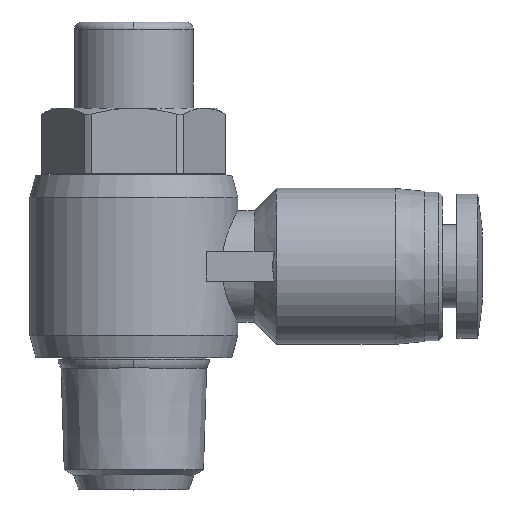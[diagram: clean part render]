
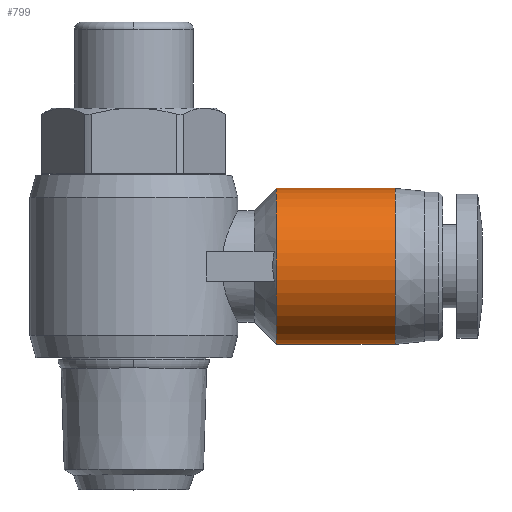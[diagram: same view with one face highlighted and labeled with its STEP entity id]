
A CAD part, top view. The second image highlights one B-rep face of the part: STEP entity #799.
In plain terms, the highlighted cylindrical face has radius 5.25 mm (diameter 10.5 mm), a partial arc.
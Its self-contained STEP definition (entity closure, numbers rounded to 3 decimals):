
#85 = VECTOR ( 'NONE', #425, 1000. ) ;
#132 = LINE ( 'NONE', #1919, #85 ) ;
#398 = VERTEX_POINT ( 'NONE', #2550 ) ;
#425 = DIRECTION ( 'NONE',  ( -1., 0., 0. ) ) ;
#454 = DIRECTION ( 'NONE',  ( 0., -1., 0. ) ) ;
#497 = EDGE_CURVE ( 'NONE', #543, #971, #2942, .T. ) ;
#543 = VERTEX_POINT ( 'NONE', #2554 ) ;
#548 = DIRECTION ( 'NONE',  ( 0., -1., 0. ) ) ;
#775 = DIRECTION ( 'NONE',  ( -1., 0., 0. ) ) ;
#799 = ADVANCED_FACE ( 'NONE', ( #3230 ), #2606, .T. ) ;
#812 = EDGE_CURVE ( 'NONE', #971, #398, #1681, .T. ) ;
#971 = VERTEX_POINT ( 'NONE', #1521 ) ;
#1029 = CARTESIAN_POINT ( 'NONE',  ( 9.6, 15.05, 0. ) ) ;
#1085 = AXIS2_PLACEMENT_3D ( 'NONE', #1029, #1974, #3436 ) ;
#1110 = EDGE_CURVE ( 'NONE', #543, #1393, #132, .T. ) ;
#1147 = CARTESIAN_POINT ( 'NONE',  ( 13.6, 20.3, 0. ) ) ;
#1393 = VERTEX_POINT ( 'NONE', #2252 ) ;
#1507 = AXIS2_PLACEMENT_3D ( 'NONE', #2044, #2833, #454 ) ;
#1521 = CARTESIAN_POINT ( 'NONE',  ( 17.6, 20.3, 0. ) ) ;
#1656 = ORIENTED_EDGE ( 'NONE', *, *, #1110, .F. ) ;
#1681 = LINE ( 'NONE', #1147, #2815 ) ;
#1772 = AXIS2_PLACEMENT_3D ( 'NONE', #2320, #775, #548 ) ;
#1919 = CARTESIAN_POINT ( 'NONE',  ( 13.6, 9.8, 0. ) ) ;
#1929 = ORIENTED_EDGE ( 'NONE', *, *, #497, .T. ) ;
#1974 = DIRECTION ( 'NONE',  ( -1., 0., 0. ) ) ;
#2044 = CARTESIAN_POINT ( 'NONE',  ( 17.6, 15.05, 0. ) ) ;
#2252 = CARTESIAN_POINT ( 'NONE',  ( 9.6, 9.8, 0. ) ) ;
#2320 = CARTESIAN_POINT ( 'NONE',  ( 13.6, 15.05, 0. ) ) ;
#2345 = DIRECTION ( 'NONE',  ( -1., 0., 0. ) ) ;
#2504 = ORIENTED_EDGE ( 'NONE', *, *, #3635, .F. ) ;
#2550 = CARTESIAN_POINT ( 'NONE',  ( 9.6, 20.3, 0. ) ) ;
#2554 = CARTESIAN_POINT ( 'NONE',  ( 17.6, 9.8, 0. ) ) ;
#2606 = CYLINDRICAL_SURFACE ( 'NONE', #1772, 5.25 ) ;
#2771 = CIRCLE ( 'NONE', #1085, 5.25 ) ;
#2815 = VECTOR ( 'NONE', #2345, 1000. ) ;
#2833 = DIRECTION ( 'NONE',  ( -1., 0., 0. ) ) ;
#2942 = CIRCLE ( 'NONE', #1507, 5.25 ) ;
#3089 = ORIENTED_EDGE ( 'NONE', *, *, #812, .T. ) ;
#3230 = FACE_OUTER_BOUND ( 'NONE', #3676, .T. ) ;
#3436 = DIRECTION ( 'NONE',  ( 0., -1., 0. ) ) ;
#3635 = EDGE_CURVE ( 'NONE', #1393, #398, #2771, .T. ) ;
#3676 = EDGE_LOOP ( 'NONE', ( #1929, #3089, #2504, #1656 ) ) ;
